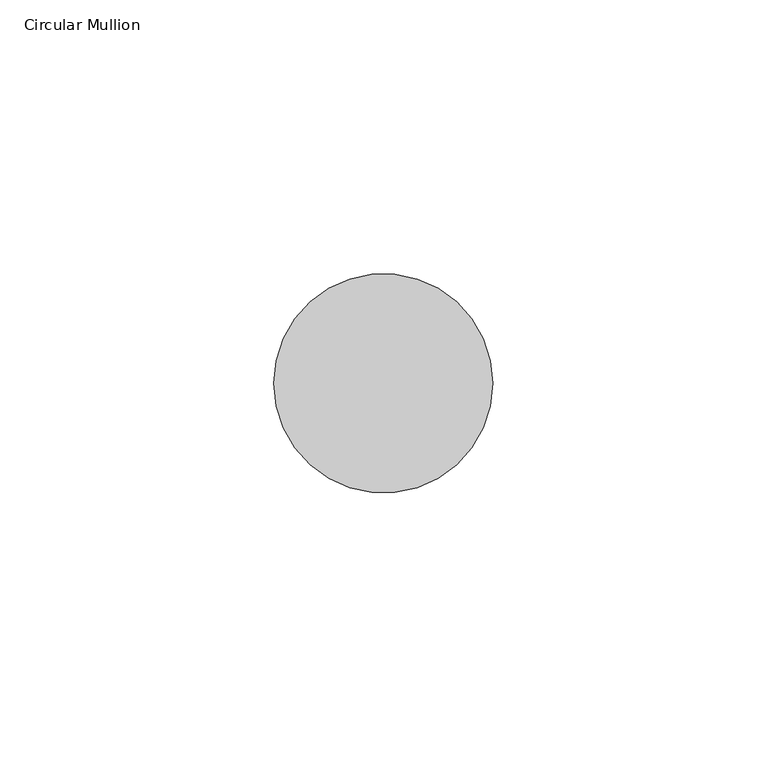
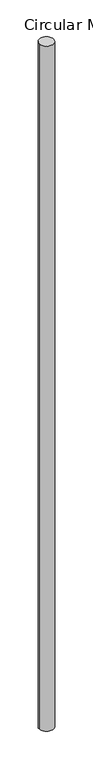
"""IFC4 building model written with IfcOpenShell, lengths in millimetres: member geometry, Circular Mullion : GRADIL 40mm."""

import ifcopenshell
import ifcopenshell.guid

model = None  # the IFC model being written
_history = None  # IfcOwnerHistory: only IFC2X3 demands one
_inside = {}  # id of a spatial element -> (the spatial element, [elements in it])
_under = {}  # id of a project, library or spatial element -> (it, [spatial elements below it])
_declared = {}  # id of a project -> (the project, [libraries it declares])
_typed = {}  # id of a type object -> (the type object, [elements of that type])
_made_of = {}  # id of a material, layer set ... -> (it, [elements and type objects made of it])


def new_model(schema):
    """Start an empty IFC model of exactly this schema.

    Asked for "IFC4X3", IfcOpenShell would pick the latest addendum, in which some entities
    have other attributes; the version numbers below select the first issue.
    IFC2X3 requires an IfcOwnerHistory on every rooted entity: one is made here for all.
    """
    global model, _history
    if schema == "IFC4X3":
        model = ifcopenshell.file(schema_version=(4, 3, 0, 0))
    else:
        model = ifcopenshell.file(schema=schema)
    _inside.clear()
    _under.clear()
    _declared.clear()
    _typed.clear()
    _made_of.clear()
    _history = None
    if model.schema == "IFC2X3":
        org = make("IfcOrganization", Name="unknown")
        user = make(
            "IfcPersonAndOrganization",
            ThePerson=make("IfcPerson", FamilyName="unknown"),
            TheOrganization=org,
        )
        app = make(
            "IfcApplication",
            ApplicationDeveloper=org,
            Version="unknown",
            ApplicationFullName="unknown",
            ApplicationIdentifier="unknown",
        )
        _history = make(
            "IfcOwnerHistory",
            OwningUser=user,
            OwningApplication=app,
            ChangeAction="ADDED",
            CreationDate=0,
        )
    return model


def make(cls, **values):
    """One entity of the class cls with the attributes given. An attribute that is None is left unset."""
    return model.create_entity(
        cls, **{name: value for name, value in values.items() if value is not None}
    )


def rooted(cls, **values):
    """An entity with a GlobalId (a new one), such as an element, a storey or a relation."""
    return make(cls, GlobalId=ifcopenshell.guid.new(), OwnerHistory=_history, **values)


def si_unit(unit_type, name, prefix=None):
    """IfcSIUnit, for example si_unit("LENGTHUNIT", "METRE", prefix="MILLI")."""
    return make("IfcSIUnit", UnitType=unit_type, Prefix=prefix, Name=name)


def assignment(units):
    """IfcUnitAssignment: the units of a project."""
    return None if units is None else make("IfcUnitAssignment", Units=units)


def point(xyz):
    """IfcCartesianPoint."""
    return None if xyz is None else make("IfcCartesianPoint", Coordinates=xyz)


def direction(xyz):
    """IfcDirection."""
    return None if xyz is None else make("IfcDirection", DirectionRatios=xyz)


def frame(location, z_axis=None, x_axis=None):
    """IfcAxis2Placement3D, a coordinate frame: its origin and axes. An axis left out is left unset."""
    return make(
        "IfcAxis2Placement3D",
        Location=point(location),
        Axis=direction(z_axis),
        RefDirection=direction(x_axis),
    )


def frame_2d(location, x_axis=None):
    """IfcAxis2Placement2D, a coordinate frame in the plane: its origin and x axis."""
    return make(
        "IfcAxis2Placement2D", Location=point(location), RefDirection=direction(x_axis)
    )


def origin():
    """The frame at (0, 0, 0) with its axes left unset."""
    return frame((0.0, 0.0, 0.0))


def origin_2d():
    """The frame at (0, 0) in the plane with its x axis left unset."""
    return frame_2d((0.0, 0.0))


def place(relative_to, where):
    """IfcLocalPlacement: puts the frame where relative to a parent placement (None: the world)."""
    return make(
        "IfcLocalPlacement", PlacementRelTo=relative_to, RelativePlacement=where
    )


def context(
    kind, dimensions, precision=None, world=None, true_north=None, identifier=None
):
    """IfcGeometricRepresentationContext, for example the 3D "Model" context."""
    return make(
        "IfcGeometricRepresentationContext",
        ContextIdentifier=identifier,
        ContextType=kind,
        CoordinateSpaceDimension=dimensions,
        Precision=precision,
        WorldCoordinateSystem=world,
        TrueNorth=true_north,
    )


def project(units=None, contexts=None):
    """IfcProject with its units and contexts."""
    return rooted(
        "IfcProject",
        Name="project",
        RepresentationContexts=contexts,
        UnitsInContext=assignment(units),
    )


def spatial(cls, under=None, at=None, **own):
    """A site, building, storey or space (cls), placed at a placement, below another one or the project."""
    s = rooted(cls, ObjectPlacement=at, **own)
    if under is not None:
        _under.setdefault(under.id(), (under, []))[1].append(s)
    return s


def circle_curve(where, radius):
    """IfcCircle in the frame where."""
    return make("IfcCircle", Position=where, Radius=radius)


def trimmed(basis, trim1, trim2, sense, master):
    """IfcTrimmedCurve: the piece of a basis curve between two trims."""
    return make(
        "IfcTrimmedCurve",
        BasisCurve=basis,
        Trim1=trim1,
        Trim2=trim2,
        SenseAgreement=sense,
        MasterRepresentation=master,
    )


def segment(curve, same_sense, transition):
    """IfcCompositeCurveSegment."""
    return make(
        "IfcCompositeCurveSegment",
        Transition=transition,
        SameSense=same_sense,
        ParentCurve=curve,
    )


def composite_curve(segments, self_intersect=None):
    """IfcCompositeCurve: segments joined end to end."""
    return make("IfcCompositeCurve", Segments=segments, SelfIntersect=self_intersect)


def outline(outer, holes=None, kind="AREA"):
    """IfcArbitraryClosedProfileDef: a profile drawn as a closed curve; with holes, ...WithVoids."""
    if holes is None:
        return make("IfcArbitraryClosedProfileDef", ProfileType=kind, OuterCurve=outer)
    return make(
        "IfcArbitraryProfileDefWithVoids",
        ProfileType=kind,
        OuterCurve=outer,
        InnerCurves=holes,
    )


def extrude(swept, where, along, depth):
    """IfcExtrudedAreaSolid: the profile swept, set in the frame where, extruded along a direction by depth."""
    return make(
        "IfcExtrudedAreaSolid",
        SweptArea=swept,
        Position=where,
        ExtrudedDirection=direction(along),
        Depth=depth,
    )


def shape(context_of_items, identifier, shape_type, items):
    """IfcShapeRepresentation: the items that make up one representation, for example the "Body"."""
    return make(
        "IfcShapeRepresentation",
        ContextOfItems=context_of_items,
        RepresentationIdentifier=identifier,
        RepresentationType=shape_type,
        Items=items,
    )


def source(mapping_origin, context_of_items, identifier, shape_type, items):
    """IfcRepresentationMap: a shape defined once, which mapped items show again and again."""
    return make(
        "IfcRepresentationMap",
        MappingOrigin=mapping_origin,
        MappedRepresentation=shape(context_of_items, identifier, shape_type, items),
    )


def transform(
    local_origin,
    x_axis=None,
    y_axis=None,
    z_axis=None,
    scale=None,
    scale2=None,
    scale3=None,
    uniform=True,
):
    """IfcCartesianTransformationOperator3D, or its non-uniform kind. x_axis, y_axis, z_axis: its Axis1, 2, 3."""
    if uniform:
        return make(
            "IfcCartesianTransformationOperator3D",
            Axis1=direction(x_axis),
            Axis2=direction(y_axis),
            LocalOrigin=point(local_origin),
            Scale=scale,
            Axis3=direction(z_axis),
        )
    return make(
        "IfcCartesianTransformationOperator3DnonUniform",
        Axis1=direction(x_axis),
        Axis2=direction(y_axis),
        LocalOrigin=point(local_origin),
        Scale=scale,
        Axis3=direction(z_axis),
        Scale2=scale2,
        Scale3=scale3,
    )


def mapped(mapping_source, mapping_target):
    """IfcMappedItem: shows the shape of a source again, moved by a transform."""
    return make(
        "IfcMappedItem", MappingSource=mapping_source, MappingTarget=mapping_target
    )


def made_of(thing, what):
    """Note that an element or type object is made of a material, layer set ...; save() writes the relation."""
    if what is not None:
        _made_of.setdefault(what.id(), (what, []))[1].append(thing)
    return thing


def element(
    cls,
    number,
    at=None,
    inside=None,
    cuts=None,
    type_object=None,
    material=None,
    context=None,
    identifier="Body",
    shape_type=None,
    held_by="IfcProductDefinitionShape",
    body=None,
    shapes=None,
    **own,
):
    """One element of the class cls, such as IfcWall. Its Tag is "e" and its number.

    at: its placement. inside: the storey or other place that contains it. cuts: it is an
    opening in that element (IfcRelVoidsElement). A single representation is given by context,
    identifier, shape_type and body (its items); several are given by shapes. held_by: the class
    of the entity that holds the representations. save() writes the other relations.
    """
    e = rooted(cls, Tag="e%d" % number, ObjectPlacement=at, **own)
    if body is not None:
        shapes = [shape(context, identifier, shape_type, body)]
    if shapes is not None:
        e.Representation = make(held_by, Representations=shapes)
    if inside is not None:
        _inside.setdefault(inside.id(), (inside, []))[1].append(e)
    if cuts is not None:
        rooted(
            "IfcRelVoidsElement", RelatingBuildingElement=cuts, RelatedOpeningElement=e
        )
    if type_object is not None:
        _typed.setdefault(type_object.id(), (type_object, []))[1].append(e)
    return made_of(e, material)


def aggregate(whole, parts):
    """IfcRelAggregates: a whole, such as a stair, and the parts it consists of."""
    return rooted("IfcRelAggregates", RelatingObject=whole, RelatedObjects=parts)


def save(model, path):
    """Write the relations noted so far, then the file.

    IfcRelAggregates (storeys below a building ...), IfcRelContainedInSpatialStructure (elements
    in a storey), IfcRelDefinesByType, IfcRelAssociatesMaterial and IfcRelDeclares: one each for
    every whole, place, type object, material and project.
    """
    for whole, parts in _under.values():
        aggregate(whole, parts)
    for where, things in _inside.values():
        rooted(
            "IfcRelContainedInSpatialStructure",
            RelatedElements=things,
            RelatingStructure=where,
        )
    for kind, things in _typed.values():
        rooted("IfcRelDefinesByType", RelatedObjects=things, RelatingType=kind)
    for what, things in _made_of.values():
        rooted("IfcRelAssociatesMaterial", RelatedObjects=things, RelatingMaterial=what)
    for by, libraries in _declared.values():
        rooted("IfcRelDeclares", RelatingContext=by, RelatedDefinitions=libraries)
    model.write(path)


def circular_mullion_e8a92ebc(model_context):
    return source(origin(), model_context, "Body", "SweptSolid", [
        extrude(outline(composite_curve([segment(trimmed(circle_curve(origin_2d(), 20.0), [point((20.0, 0.0))], [point((-20.0, 0.0))], False, "CARTESIAN"), True, "CONTINUOUS"), segment(trimmed(circle_curve(origin_2d(), 20.0), [point((-20.0, 0.0))], [point((20.0, 0.0))], False, "CARTESIAN"), True, "CONTINUOUS")], self_intersect=False)), frame((0.0, 0.0, -1983.6960985), z_axis=(0.0, 0.0, 1.0), x_axis=(1.0, 0.0, 0.0)), (0.0, 0.0, 1.0), 1983.6960985),
    ])


if __name__ == "__main__":
    model = new_model("IFC4")
    model_context = context("Model", 3, world=origin())
    ifc_project = project(units=[si_unit("LENGTHUNIT", "METRE", prefix="MILLI")], contexts=[model_context])
    site = spatial("IfcSite", under=ifc_project)
    building = spatial("IfcBuilding", under=site)
    placement = place(None, origin())
    circular_mullion_shape = circular_mullion_e8a92ebc(model_context)
    element("IfcMember", 1, ObjectType="Circular Mullion : GRADIL 40mm", at=placement, inside=building, context=model_context, shape_type="MappedRepresentation", body=[
        mapped(circular_mullion_shape, transform((0.0, 0.0, 0.0), x_axis=(1.0, 0.0, 0.0), y_axis=(0.0, 1.0, 0.0), z_axis=(0.0, 0.0, 1.0))),
    ])
    save(model, "model.ifc")
